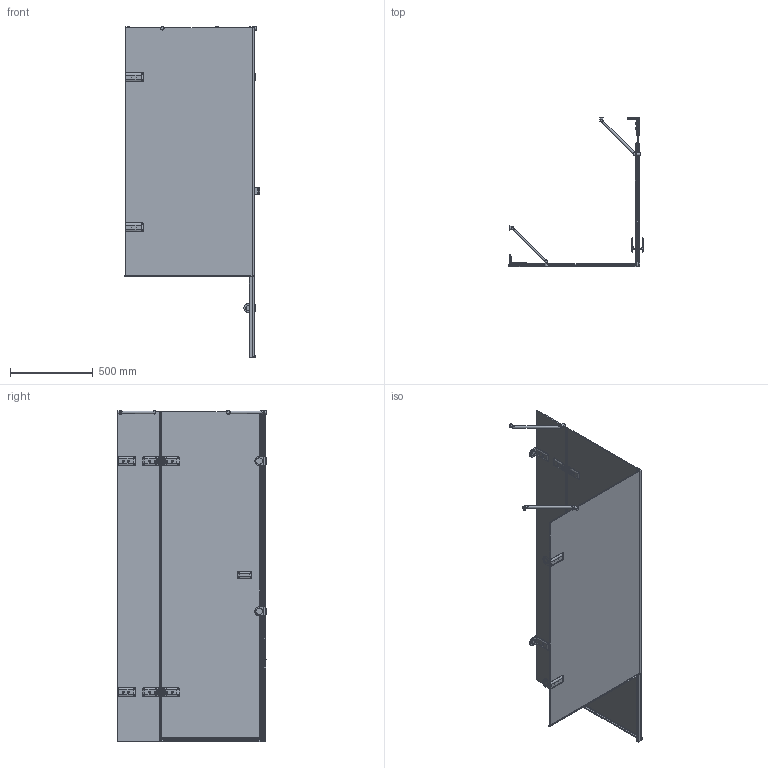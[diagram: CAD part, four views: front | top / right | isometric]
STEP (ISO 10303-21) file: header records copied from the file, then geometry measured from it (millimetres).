
FILE_DESCRIPTION(/* description */ (''),/* implementation_level */ '2;1');
FILE_NAME(/* name */ 'E:\Работа\Сергей\Душевые кабинки\! Работа\! 2\one_two\TREND SQUARE GK-863VTWO\TREND SQUARE GK-863VTWO правая модель\TREND SQUARE GK-863VTWO ПРАВАЯ-3D.stp',/* time_stamp */ '2017-08-22T22:48:44+03:00',/* author */ ('PC'),/* organization */ (''),/* preprocessor_version */ 'ST-DEVELOPER v15.2',/* originating_system */ 'Autodesk Inventor 2014',/* authorisation */ '');
FILE_SCHEMA (('AUTOMOTIVE_DESIGN { 1 0 10303 214 3 1 1 }'));
Products named in the file (1): TREND SQUARE GK-863VTWO ПРАВАЯ-
3D
Bounding box: 818.5 x 907.5 x 2009.49 mm (x, y, z)
Volume: 19121699.2 mm3; surface area: 6398867.3 mm2
Topology: 8 solids, 25 shells, 1650 faces, 4265 edges, 2646 vertices
Faces by surface type: plane 960, cylinder 418, bspline 171, torus 51, cone 32, sphere 18
Full cylindrical faces by diameter (mm): 4.917 x8, 6 x4, 9 x8, 13 x4, 15 x2, 20 x4, 26 x2, 28 x4, 28.5 x4, 40 x4
Entity records: 69211 total; most frequent: CARTESIAN_POINT 28645, ORIENTED_EDGE 8180, DIRECTION 7837, EDGE_CURVE 4088, AXIS2_PLACEMENT_3D 2664, VERTEX_POINT 2608, LINE 2509, VECTOR 2509
